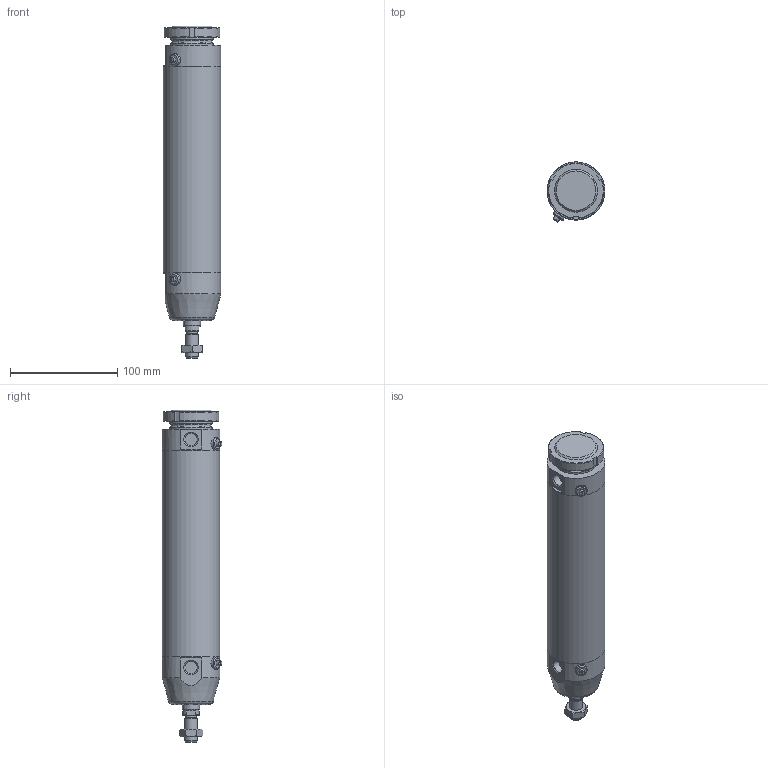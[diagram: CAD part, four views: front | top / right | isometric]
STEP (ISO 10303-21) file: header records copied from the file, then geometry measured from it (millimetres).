
FILE_DESCRIPTION(/* description */ (''),/* implementation_level */ '2;1');
FILE_NAME(/* name */ 'I:\Area Tecnica\Documenti\A-Manieri\_Inventor\12X\12X#B_###_####_#_#\12XBB_050_0150_#_#.stp',/* time_stamp */ '2015-04-28T14:28:50+02:00',/* author */ ('maniean1'),/* organization */ ('Pneumax S.p.A.'),/* preprocessor_version */ 'ST-DEVELOPER v15.2',/* originating_system */ 'Autodesk Inventor 2014',/* authorisation */ '');
FILE_SCHEMA (('AUTOMOTIVE_DESIGN { 1 0 10303 214 3 1 1 }'));
Length unit declared in the file: millimetre
Products named in the file (7): C1250_619-0150; 12X50_614; S12X50_0150; 12X_50_11; 12X50_621; G12X_050_05; 12XBB_050_0150_#_#
Bounding box: 54 x 55.88 x 310 mm (x, y, z)
Volume: 346716.8 mm3; surface area: 113931 mm2
Topology: 6 solids, 6 shells, 98 faces, 217 edges, 140 vertices
Faces by surface type: plane 52, cylinder 24, cone 19, torus 3
Full cylindrical faces by diameter (mm): 5 x2, 10.2 x1, 11 x2, 11.4 x2, 12 x2, 14 x1, 15.6 x1, 16 x1, 38.2 x1, 40 x3, 50 x2, 54 x3
Entity records: 2646 total; most frequent: CARTESIAN_POINT 539, DIRECTION 439, ORIENTED_EDGE 346, AXIS2_PLACEMENT_3D 186, EDGE_CURVE 173, EDGE_LOOP 150, VERTEX_POINT 131, ADVANCED_FACE 98
